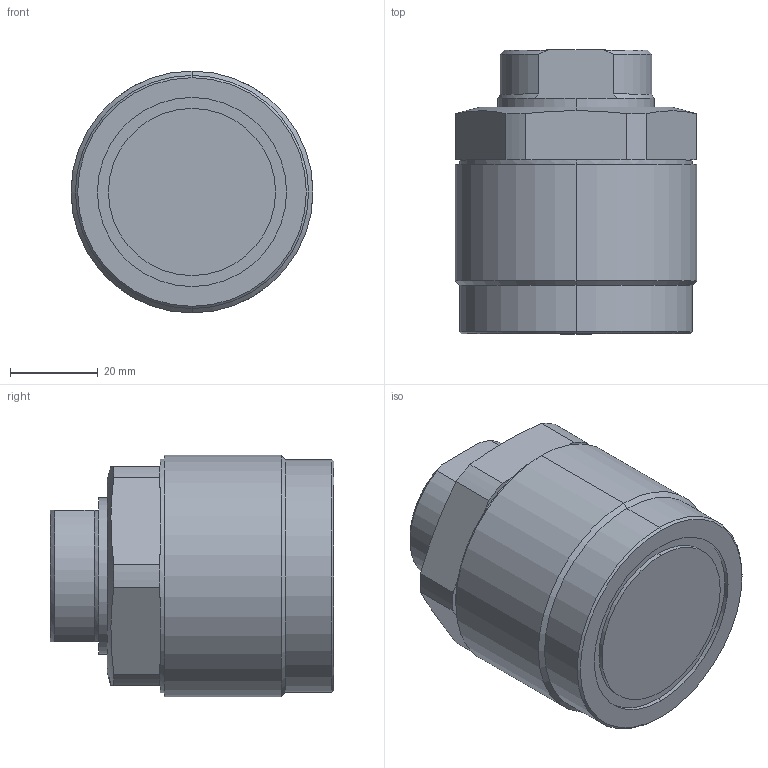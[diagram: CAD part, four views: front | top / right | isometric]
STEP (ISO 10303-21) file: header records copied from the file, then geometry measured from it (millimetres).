
FILE_DESCRIPTION (( 'STEP AP203' ), '1' );
FILE_NAME ('T03C-M556-S threaded pusher.STEP', '2022-07-09T17:46:04', ( '' ), ( '' ), 'SwSTEP 2.0', 'SolidWorks 2017', '' );
FILE_SCHEMA (( 'CONFIG_CONTROL_DESIGN' ));
Length unit declared in the file: millimetre
Products named in the file (3): T03C-M556-S part-1; T03C-M556-S part-2; T03C-M556-S threaded pusher
Assembly tree (2 placements, depth 2):
  T03C-M556-S threaded pusher
    T03C-M556-S part-1
    T03C-M556-S part-2
Bounding box: 55 x 64.5 x 55 mm (x, y, z)
Volume: 158034.7 mm3; surface area: 20821.3 mm2
Topology: 2 solids, 2 shells, 265 faces, 705 edges, 465 vertices
Faces by surface type: plane 127, bspline 102, cylinder 22, cone 14
Entity records: 13559 total; most frequent: CARTESIAN_POINT 7449, ORIENTED_EDGE 1406, DIRECTION 832, EDGE_CURVE 703, VERTEX_POINT 465, LINE 364, VECTOR 364, EDGE_LOOP 288
